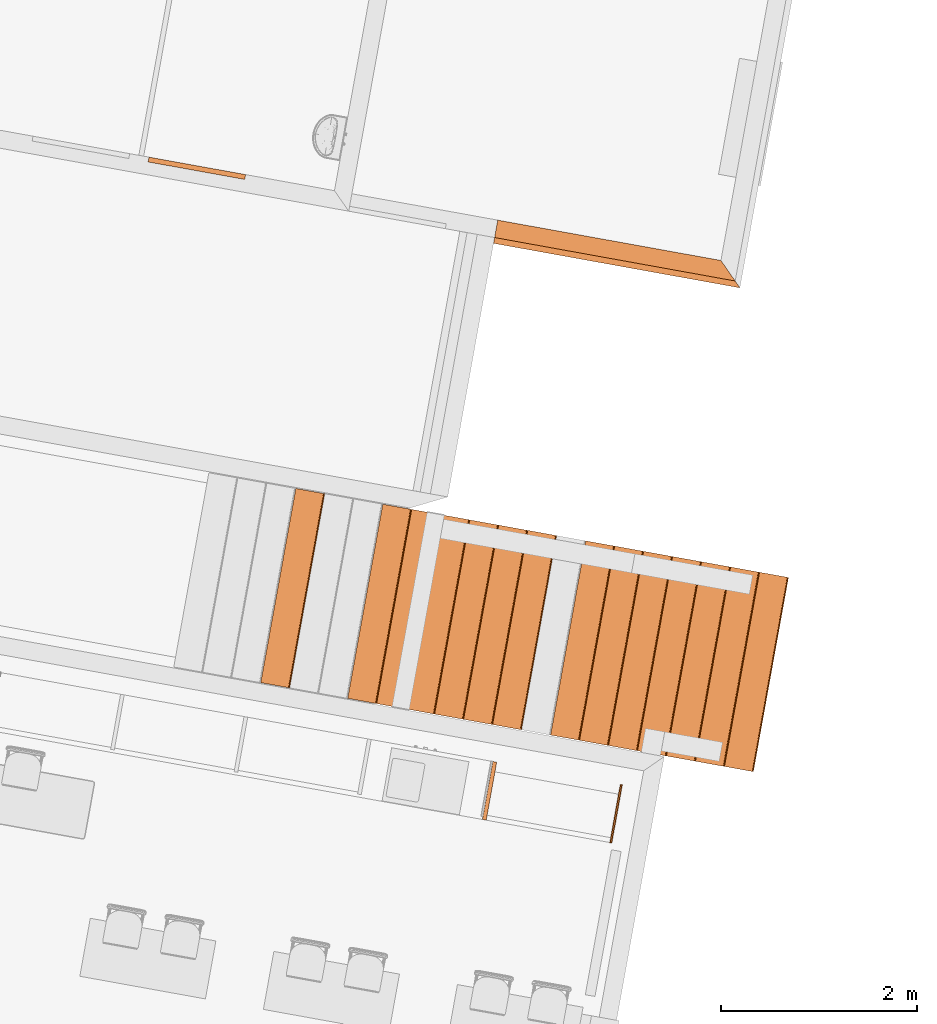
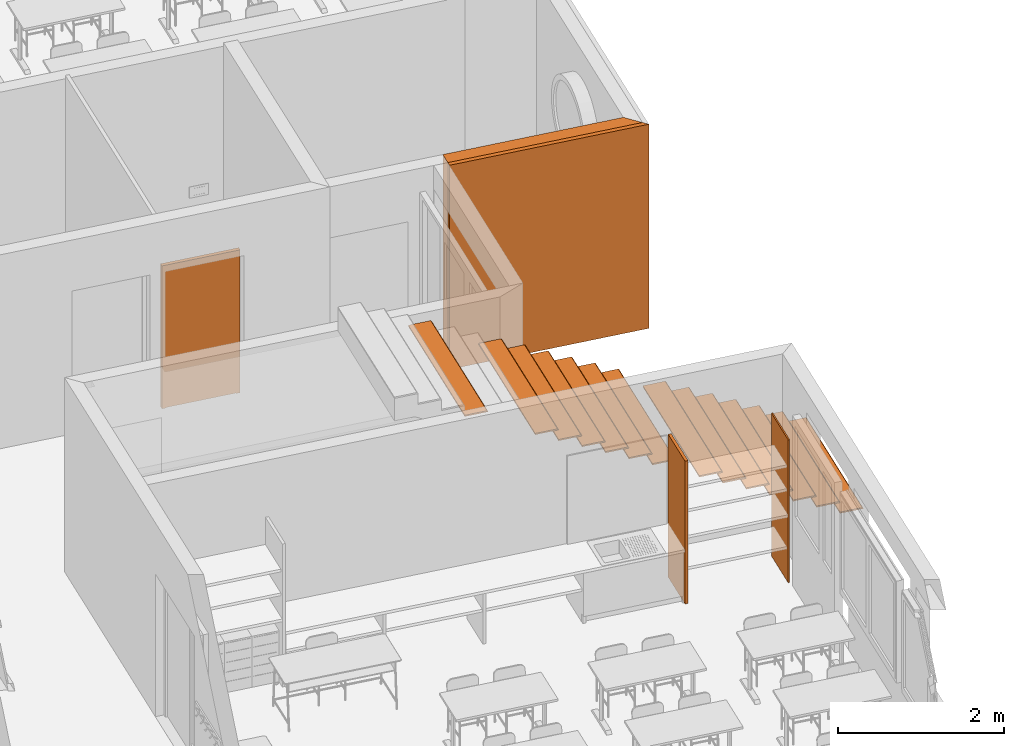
# One storey, part 30 of 79: 19 proxies, 2 elements without a shape of their own.
"""IFC2X3 building model written with IfcOpenShell, lengths in metres."""

import ifcopenshell
import ifcopenshell.guid

model = None  # the IFC model being written
_history = None  # IfcOwnerHistory: only IFC2X3 demands one
_inside = {}  # id of a spatial element -> (the spatial element, [elements in it])
_under = {}  # id of a project, library or spatial element -> (it, [spatial elements below it])
_declared = {}  # id of a project -> (the project, [libraries it declares])
_typed = {}  # id of a type object -> (the type object, [elements of that type])
_made_of = {}  # id of a material, layer set ... -> (it, [elements and type objects made of it])


def new_model(schema):
    """Start an empty IFC model of exactly this schema.

    Asked for "IFC4X3", IfcOpenShell would pick the latest addendum, in which some entities
    have other attributes; the version numbers below select the first issue.
    IFC2X3 requires an IfcOwnerHistory on every rooted entity: one is made here for all.
    """
    global model, _history
    if schema == "IFC4X3":
        model = ifcopenshell.file(schema_version=(4, 3, 0, 0))
    else:
        model = ifcopenshell.file(schema=schema)
    _inside.clear()
    _under.clear()
    _declared.clear()
    _typed.clear()
    _made_of.clear()
    _history = None
    if model.schema == "IFC2X3":
        org = make("IfcOrganization", Name="unknown")
        user = make(
            "IfcPersonAndOrganization",
            ThePerson=make("IfcPerson", FamilyName="unknown"),
            TheOrganization=org,
        )
        app = make(
            "IfcApplication",
            ApplicationDeveloper=org,
            Version="unknown",
            ApplicationFullName="unknown",
            ApplicationIdentifier="unknown",
        )
        _history = make(
            "IfcOwnerHistory",
            OwningUser=user,
            OwningApplication=app,
            ChangeAction="ADDED",
            CreationDate=0,
        )
    return model


def make(cls, **values):
    """One entity of the class cls with the attributes given. An attribute that is None is left unset."""
    return model.create_entity(
        cls, **{name: value for name, value in values.items() if value is not None}
    )


def entity(cls, *values):
    """Any entity or typed value of the class cls, its attributes in the order of the schema. None: left unset."""
    e = model.create_entity(cls)
    for i, value in enumerate(values):
        if value is not None:
            e[i] = value
    return e


def rooted(cls, **values):
    """An entity with a GlobalId (a new one), such as an element, a storey or a relation."""
    return make(cls, GlobalId=ifcopenshell.guid.new(), OwnerHistory=_history, **values)


def si_unit(unit_type, name, prefix=None):
    """IfcSIUnit, for example si_unit("LENGTHUNIT", "METRE", prefix="MILLI")."""
    return make("IfcSIUnit", UnitType=unit_type, Prefix=prefix, Name=name)


def converted_unit(unit_type, name, factor, base, dimensions=None, offset=None):
    """IfcConversionBasedUnit, such as the inch: factor (a typed value) times the base unit."""
    return make(
        "IfcConversionBasedUnit"
        if offset is None
        else "IfcConversionBasedUnitWithOffset",
        ConversionOffset=offset,
        Dimensions=None
        if dimensions is None
        else entity("IfcDimensionalExponents", *dimensions),
        UnitType=unit_type,
        Name=name,
        ConversionFactor=make(
            "IfcMeasureWithUnit", ValueComponent=factor, UnitComponent=base
        ),
    )


def derived_unit(unit_type, elements):
    """IfcDerivedUnit: a product of units, each with its exponent."""
    return make(
        "IfcDerivedUnit",
        Elements=[
            make("IfcDerivedUnitElement", Unit=unit, Exponent=power)
            for unit, power in elements
        ],
        UnitType=unit_type,
    )


def money_unit(currency):
    """IfcMonetaryUnit."""
    return make("IfcMonetaryUnit", Currency=currency)


def assignment(units):
    """IfcUnitAssignment: the units of a project."""
    return None if units is None else make("IfcUnitAssignment", Units=units)


def point(xyz):
    """IfcCartesianPoint."""
    return None if xyz is None else make("IfcCartesianPoint", Coordinates=xyz)


def direction(xyz):
    """IfcDirection."""
    return None if xyz is None else make("IfcDirection", DirectionRatios=xyz)


def frame(location, z_axis=None, x_axis=None):
    """IfcAxis2Placement3D, a coordinate frame: its origin and axes. An axis left out is left unset."""
    return make(
        "IfcAxis2Placement3D",
        Location=point(location),
        Axis=direction(z_axis),
        RefDirection=direction(x_axis),
    )


def origin_with_axes():
    """The frame at (0, 0, 0) with the z axis (0, 0, 1) and the x axis (1, 0, 0) written out."""
    return frame((0.0, 0.0, 0.0), z_axis=(0.0, 0.0, 1.0), x_axis=(1.0, 0.0, 0.0))


def place(relative_to, where):
    """IfcLocalPlacement: puts the frame where relative to a parent placement (None: the world)."""
    return make(
        "IfcLocalPlacement", PlacementRelTo=relative_to, RelativePlacement=where
    )


def context(
    kind, dimensions, precision=None, world=None, true_north=None, identifier=None
):
    """IfcGeometricRepresentationContext, for example the 3D "Model" context."""
    return make(
        "IfcGeometricRepresentationContext",
        ContextIdentifier=identifier,
        ContextType=kind,
        CoordinateSpaceDimension=dimensions,
        Precision=precision,
        WorldCoordinateSystem=world,
        TrueNorth=true_north,
    )


def subcontext(parent, identifier, kind, view, scale=None):
    """IfcGeometricRepresentationSubContext, for example "Body" below "Model"."""
    return make(
        "IfcGeometricRepresentationSubContext",
        ContextIdentifier=identifier,
        ContextType=kind,
        ParentContext=parent,
        TargetScale=scale,
        TargetView=view,
    )


def project(units=None, contexts=None):
    """IfcProject with its units and contexts."""
    return rooted(
        "IfcProject",
        Name="project",
        RepresentationContexts=contexts,
        UnitsInContext=assignment(units),
    )


def spatial(cls, under=None, at=None, **own):
    """A site, building, storey or space (cls), placed at a placement, below another one or the project."""
    s = rooted(cls, ObjectPlacement=at, **own)
    if under is not None:
        _under.setdefault(under.id(), (under, []))[1].append(s)
    return s


def polyline(points):
    """IfcPolyline through the points."""
    return make("IfcPolyline", Points=[point(p) for p in points])


def outline(outer, holes=None, kind="AREA"):
    """IfcArbitraryClosedProfileDef: a profile drawn as a closed curve; with holes, ...WithVoids."""
    if holes is None:
        return make("IfcArbitraryClosedProfileDef", ProfileType=kind, OuterCurve=outer)
    return make(
        "IfcArbitraryProfileDefWithVoids",
        ProfileType=kind,
        OuterCurve=outer,
        InnerCurves=holes,
    )


def extrude(swept, where, along, depth):
    """IfcExtrudedAreaSolid: the profile swept, set in the frame where, extruded along a direction by depth."""
    return make(
        "IfcExtrudedAreaSolid",
        SweptArea=swept,
        Position=where,
        ExtrudedDirection=direction(along),
        Depth=depth,
    )


def faces_of(points, faces, orient=None, outer=None):
    """IfcFace entities. A face is a list of loops; a loop is a list of indices into points, from 0.

    orient and outer hold one flag for each loop. By default every Orientation is true, the
    first loop of a face is its IfcFaceOuterBound and the others are IfcFaceBound.
    """
    made = []
    for i, loops in enumerate(faces):
        bounds = []
        for j, loop in enumerate(loops):
            is_outer = j == 0 if outer is None else outer[i][j]
            bounds.append(
                make(
                    "IfcFaceOuterBound" if is_outer else "IfcFaceBound",
                    Bound=make("IfcPolyLoop", Polygon=[points[k] for k in loop]),
                    Orientation=True if orient is None else orient[i][j],
                )
            )
        made.append(make("IfcFace", Bounds=bounds))
    return made


def faceted_brep(points, faces, orient=None, outer=None, voids=None):
    """IfcFacetedBrep: a solid bounded by flat faces; with voids (closed shells), ...WithVoids."""
    shared = [point(p) for p in points]
    hull = make("IfcClosedShell", CfsFaces=faces_of(shared, faces, orient, outer))
    if voids is None:
        return make("IfcFacetedBrep", Outer=hull)
    return make(
        "IfcFacetedBrepWithVoids",
        Outer=hull,
        Voids=[
            make(cls, CfsFaces=faces_of(shared, fs, o, b)) for cls, fs, o, b in voids
        ],
    )


def shape(context_of_items, identifier, shape_type, items):
    """IfcShapeRepresentation: the items that make up one representation, for example the "Body"."""
    return make(
        "IfcShapeRepresentation",
        ContextOfItems=context_of_items,
        RepresentationIdentifier=identifier,
        RepresentationType=shape_type,
        Items=items,
    )


def source(mapping_origin, context_of_items, identifier, shape_type, items):
    """IfcRepresentationMap: a shape defined once, which mapped items show again and again."""
    return make(
        "IfcRepresentationMap",
        MappingOrigin=mapping_origin,
        MappedRepresentation=shape(context_of_items, identifier, shape_type, items),
    )


def transform(
    local_origin,
    x_axis=None,
    y_axis=None,
    z_axis=None,
    scale=None,
    scale2=None,
    scale3=None,
    uniform=True,
):
    """IfcCartesianTransformationOperator3D, or its non-uniform kind. x_axis, y_axis, z_axis: its Axis1, 2, 3."""
    if uniform:
        return make(
            "IfcCartesianTransformationOperator3D",
            Axis1=direction(x_axis),
            Axis2=direction(y_axis),
            LocalOrigin=point(local_origin),
            Scale=scale,
            Axis3=direction(z_axis),
        )
    return make(
        "IfcCartesianTransformationOperator3DnonUniform",
        Axis1=direction(x_axis),
        Axis2=direction(y_axis),
        LocalOrigin=point(local_origin),
        Scale=scale,
        Axis3=direction(z_axis),
        Scale2=scale2,
        Scale3=scale3,
    )


def mapped(mapping_source, mapping_target):
    """IfcMappedItem: shows the shape of a source again, moved by a transform."""
    return make(
        "IfcMappedItem", MappingSource=mapping_source, MappingTarget=mapping_target
    )


def material(Name=None, Category=None):
    """IfcMaterial."""
    return make("IfcMaterial", Name=Name, Category=Category)


def made_of(thing, what):
    """Note that an element or type object is made of a material, layer set ...; save() writes the relation."""
    if what is not None:
        _made_of.setdefault(what.id(), (what, []))[1].append(thing)
    return thing


def type_object(cls, material=None, **own):
    """A type object (cls), such as IfcWallType, which elements share."""
    return made_of(rooted(cls, **own), material)


def element(
    cls,
    number,
    at=None,
    inside=None,
    cuts=None,
    type_object=None,
    material=None,
    context=None,
    identifier="Body",
    shape_type=None,
    held_by="IfcProductDefinitionShape",
    body=None,
    shapes=None,
    **own,
):
    """One element of the class cls, such as IfcWall. Its Tag is "e" and its number.

    at: its placement. inside: the storey or other place that contains it. cuts: it is an
    opening in that element (IfcRelVoidsElement). A single representation is given by context,
    identifier, shape_type and body (its items); several are given by shapes. held_by: the class
    of the entity that holds the representations. save() writes the other relations.
    """
    e = rooted(cls, Tag="e%d" % number, ObjectPlacement=at, **own)
    if body is not None:
        shapes = [shape(context, identifier, shape_type, body)]
    if shapes is not None:
        e.Representation = make(held_by, Representations=shapes)
    if inside is not None:
        _inside.setdefault(inside.id(), (inside, []))[1].append(e)
    if cuts is not None:
        rooted(
            "IfcRelVoidsElement", RelatingBuildingElement=cuts, RelatedOpeningElement=e
        )
    if type_object is not None:
        _typed.setdefault(type_object.id(), (type_object, []))[1].append(e)
    return made_of(e, material)


def aggregate(whole, parts):
    """IfcRelAggregates: a whole, such as a stair, and the parts it consists of."""
    return rooted("IfcRelAggregates", RelatingObject=whole, RelatedObjects=parts)


def save(model, path):
    """Write the relations noted so far, then the file.

    IfcRelAggregates (storeys below a building ...), IfcRelContainedInSpatialStructure (elements
    in a storey), IfcRelDefinesByType, IfcRelAssociatesMaterial and IfcRelDeclares: one each for
    every whole, place, type object, material and project.
    """
    for whole, parts in _under.values():
        aggregate(whole, parts)
    for where, things in _inside.values():
        rooted(
            "IfcRelContainedInSpatialStructure",
            RelatedElements=things,
            RelatingStructure=where,
        )
    for kind, things in _typed.values():
        rooted("IfcRelDefinesByType", RelatedObjects=things, RelatingType=kind)
    for what, things in _made_of.values():
        rooted("IfcRelAssociatesMaterial", RelatedObjects=things, RelatingMaterial=what)
    for by, libraries in _declared.values():
        rooted("IfcRelDeclares", RelatingContext=by, RelatedDefinitions=libraries)
    model.write(path)


model = new_model("IFC2X3")

# Units and contexts
model_context = context("Model", 3, precision=1e-05, world=origin_with_axes(), true_north=direction((0.0, 1.0)))
body_context = subcontext(model_context, "Body", "Model", "MODEL_VIEW")
ifc_project = project(units=[si_unit("LENGTHUNIT", "METRE"), si_unit("AREAUNIT", "SQUARE_METRE"), si_unit("VOLUMEUNIT", "CUBIC_METRE"), converted_unit("PLANEANGLEUNIT", "DEGREE", entity("IfcPlaneAngleMeasure", 0.0174532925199), si_unit("PLANEANGLEUNIT", "RADIAN"), dimensions=[0, 0, 0, 0, 0, 0, 0]), money_unit("CHF"), converted_unit("TIMEUNIT", "Year", entity("IfcTimeMeasure", 31556926.0), si_unit("TIMEUNIT", "SECOND"), dimensions=[0, 0, 1, 0, 0, 0, 0]), si_unit("MASSUNIT", "GRAM", prefix="KILO"), si_unit("THERMODYNAMICTEMPERATUREUNIT", "DEGREE_CELSIUS"), si_unit("LUMINOUSINTENSITYUNIT", "LUMEN"), si_unit("ENERGYUNIT", "JOULE", prefix="MEGA"), derived_unit("THERMALCONDUCTANCEUNIT", [(si_unit("POWERUNIT", "WATT"), 1), (si_unit("LENGTHUNIT", "METRE"), -1), (si_unit("THERMODYNAMICTEMPERATUREUNIT", "KELVIN"), -1)]), derived_unit("SPECIFICHEATCAPACITYUNIT", [(si_unit("ENERGYUNIT", "JOULE"), 1), (si_unit("MASSUNIT", "GRAM", prefix="KILO"), -1), (si_unit("THERMODYNAMICTEMPERATUREUNIT", "KELVIN"), -1)]), derived_unit("MASSDENSITYUNIT", [(si_unit("MASSUNIT", "GRAM", prefix="KILO"), 1), (si_unit("VOLUMEUNIT", "CUBIC_METRE"), -1)])], contexts=[model_context])

# Site, building, storey
site_placement = place(None, frame((0.0, 0.0, 0.0), z_axis=(0.0, 0.0, 1.0), x_axis=(-0.177771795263, -0.984071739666, 0.0)))
site = spatial("IfcSite", under=ifc_project, at=site_placement, Name="Site", CompositionType="ELEMENT")
building_placement = place(site_placement, origin_with_axes())
building = spatial("IfcBuilding", under=site, at=building_placement, Name="Bâtiment", CompositionType="ELEMENT")
storey_placement = place(building_placement, origin_with_axes())
storey = spatial("IfcBuildingStorey", under=building, at=storey_placement, Name="RDC", CompositionType="ELEMENT", Elevation=0.0)

# Proxies
ifc_material_1 = material(Name="_panneau mélaminé")
building_element_proxy_type_1 = type_object("IfcBuildingElementProxyType", Name="_panneau mélaminé 40", PredefinedType="NOTDEFINED")
proxy_1_placement = place(storey_placement, frame((147.149841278, -149.826151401, 0.0), z_axis=(0.0, 0.0, 1.0), x_axis=(-1.0, 0.0, 0.0)))
element("IfcBuildingElementProxy", 1, at=proxy_1_placement, inside=storey, type_object=building_element_proxy_type_1, material=ifc_material_1, Name="cloison-fd-classe D", context=body_context, shape_type="SweptSolid", body=[
    extrude(outline(polyline([(0.0, -0.04), (0.600000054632, -0.04), (0.600000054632, 0.0), (0.0, 0.0), (0.0, -0.04)])), origin_with_axes(), (0.0, 0.0, 1.0), 2.1),
])
ifc_material_2 = material(Name="Matériau de construction IFC")
building_element_proxy_type_2 = type_object("IfcBuildingElementProxyType", Name="Porte 21", PredefinedType="NOTDEFINED")
shared_shape_1 = source(origin_with_axes(), body_context, "Body", "Brep", [
    faceted_brep([(0.95, 0.14, 0.0), (0.95, 0.13, 0.0), (0.95, 0.13, 2.05), (0.95, 0.14, 2.05), (0.962, 0.14, 0.0), (0.962, 0.18, 0.0), (1.0, 0.18, 0.0), (1.0, 0.13, 0.0), (1.0, 0.13, 2.05), (0.962, 0.14, 2.05), (1.0, 0.18, 2.05), (0.962, 0.18, 2.05)], [[[0, 1, 2, 3]], [[4, 5, 6, 7, 1, 0]], [[1, 7, 8, 2]], [[9, 3, 2, 8, 10, 11]], [[9, 4, 0, 3]], [[11, 5, 4, 9]], [[11, 10, 6, 5]], [[6, 10, 8, 7]]]),
    faceted_brep([(0.038, 0.14, 2.05), (0.038, 0.18, 2.05), (0.0, 0.18, 2.05), (0.0, 0.13, 2.05), (0.05, 0.13, 2.05), (0.05, 0.14, 2.05), (0.038, 0.14, 0.0), (0.038, 0.18, 0.0), (0.0, 0.18, 0.0), (0.0, 0.13, 0.0), (0.05, 0.13, 0.0), (0.05, 0.14, 0.0)], [[[0, 1, 2, 3, 4, 5]], [[0, 6, 7, 1]], [[7, 8, 2, 1]], [[2, 8, 9, 3]], [[3, 9, 10, 4]], [[5, 4, 10, 11]], [[5, 11, 6, 0]], [[6, 11, 10, 9, 8, 7]]]),
    faceted_brep([(0.962, 0.18, 2.062), (0.038, 0.18, 2.062), (0.038, 0.18, 2.05), (0.0, 0.18, 2.05), (0.0, 0.18, 2.1), (1.0, 0.18, 2.1), (1.0, 0.18, 2.05), (0.962, 0.18, 2.05), (0.962, 0.14, 2.062), (0.038, 0.14, 2.062), (0.038, 0.14, 2.05), (0.05, 0.14, 2.05), (0.05, 0.13, 2.05), (0.0, 0.13, 2.05), (0.0, 0.13, 2.1), (1.0, 0.13, 2.1), (1.0, 0.13, 2.05), (0.962, 0.14, 2.05), (0.95, 0.13, 2.05), (0.95, 0.14, 2.05)], [[[0, 1, 2, 3, 4, 5, 6, 7]], [[0, 8, 9, 1]], [[1, 9, 10, 2]], [[10, 11, 12, 13, 3, 2]], [[4, 3, 13, 14]], [[5, 4, 14, 15]], [[6, 5, 15, 16]], [[17, 7, 6, 16, 18, 19]], [[7, 17, 8, 0]], [[10, 9, 8, 17, 19, 11]], [[19, 18, 12, 11]], [[12, 18, 16, 15, 14, 13]]]),
    faceted_brep([(0.038, 0.17, 0.0), (0.962, 0.17, 0.0), (0.962, 0.14, 0.0), (0.038, 0.14, 0.0), (0.038, 0.17, 2.062), (0.962, 0.17, 2.062), (0.962, 0.14, 2.062), (0.038, 0.14, 2.062)], [[[0, 1, 2, 3]], [[0, 4, 5, 1]], [[1, 5, 6, 2]], [[3, 2, 6, 7]], [[4, 0, 3, 7]], [[5, 4, 7, 6]]]),
])
proxy_2_placement = place(storey_placement, frame((141.294841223, -154.367150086, 0.0), z_axis=(0.0, 0.0, 1.0), x_axis=(0.0, 1.0, 0.0)))
element("IfcBuildingElementProxy", 2, at=proxy_2_placement, inside=storey, type_object=building_element_proxy_type_2, material=ifc_material_2, Name="23", context=body_context, shape_type="MappedRepresentation", body=[
    mapped(shared_shape_1, transform((0.0, 0.0, 0.0))),
])
building_element_proxy_type_3 = type_object("IfcBuildingElementProxyType", Name="_panneau mélaminé 19", PredefinedType="NOTDEFINED")
proxy_3_placement = place(storey_placement, frame((147.149841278, -148.506151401, 0.0), z_axis=(0.0, 0.0, 1.0), x_axis=(-1.0, 0.0, 0.0)))
element("IfcBuildingElementProxy", 3, at=proxy_3_placement, inside=storey, type_object=building_element_proxy_type_3, material=ifc_material_1, Name="cloison-fd-classe D", context=body_context, shape_type="SweptSolid", body=[
    extrude(outline(polyline([(0.0, -0.019), (0.600000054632, -0.019), (0.600000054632, 0.0), (0.0, 0.0), (0.0, -0.019)])), origin_with_axes(), (0.0, 0.0, 1.0), 2.1),
])

building_element_proxy_type_4 = type_object("IfcBuildingElementProxyType", Name="_M ext bard. 6+18+18 gris 420", PredefinedType="NOTDEFINED")
proxy_4_placement = place(storey_placement, origin_with_axes())
proxy_4 = element("IfcBuildingElementProxy", 4, at=proxy_4_placement, inside=storey, type_object=building_element_proxy_type_4, Name="M ext-milieu")
ifc_material_3 = material(Name="_BA banché RAL9007")
building_element_proxy_type_5 = type_object("IfcBuildingElementProxyType", Name="IFC Extruded", PredefinedType="NOTDEFINED")
proxy_5_placement = place(proxy_4_placement, frame((141.294841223, -150.757148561, -0.15), z_axis=(0.0, 0.0, 1.0), x_axis=(0.0, 1.0, 0.0)))
proxy_5 = element("IfcBuildingElementProxy", 5, at=proxy_5_placement, type_object=building_element_proxy_type_5, material=ifc_material_3, Name="_BA banché RAL9007", context=body_context, shape_type="SweptSolid", body=[
    extrude(outline(polyline([(0.0, 0.0), (2.48999814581, 0.0), (2.30999813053, 0.18), (0.0, 0.18), (0.0, 0.0)])), origin_with_axes(), (0.0, 0.0, 1.0), 3.0),
])
ifc_material_4 = material(Name="Bois - Bardage")
proxy_6_placement = place(proxy_4_placement, frame((141.294841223, -150.757148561, -0.15), z_axis=(0.0, 0.0, 1.0), x_axis=(0.0, 1.0, 0.0)))
proxy_6 = element("IfcBuildingElementProxy", 6, at=proxy_6_placement, type_object=building_element_proxy_type_5, material=ifc_material_4, Name="Bois - Bardage", context=body_context, shape_type="SweptSolid", body=[
    extrude(outline(polyline([(0.0, -0.06), (2.5499981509, -0.06), (2.48999814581, 0.0), (0.0, 0.0), (0.0, -0.06)])), origin_with_axes(), (0.0, 0.0, 1.0), 3.0),
])
aggregate(proxy_4, [proxy_5, proxy_6])

building_element_proxy_type_6 = type_object("IfcBuildingElementProxyType", Name="Type d'escalier", PredefinedType="NOTDEFINED")
proxy_7_placement = place(storey_placement, origin_with_axes())
proxy_7 = element("IfcBuildingElementProxy", 7, at=proxy_7_placement, inside=storey, type_object=building_element_proxy_type_6, Name="ESC-2")
ifc_material_5 = material(Name="_BA banché")
building_element_proxy_type_7 = type_object("IfcBuildingElementProxyType", Name="IfcBuildingElementProxy", PredefinedType="NOTDEFINED")
shared_shape_2 = source(origin_with_axes(), body_context, "Body", "Brep", [
    faceted_brep([(-1.005, -0.3, 0.0), (-1.005, -0.3, -0.02), (1.00505429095, -0.3, -0.02), (1.00505429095, -0.3, 0.0), (-1.005, -0.02, 0.0), (-1.005, -0.0165270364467, -0.00030384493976), (-1.005, -0.0131595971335, -0.00120614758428), (-1.005, -0.00999999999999, -0.00267949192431), (-1.005, -0.00714424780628, -0.00467911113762), (-1.005, -0.00467911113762, -0.00714424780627), (-1.005, -0.00267949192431, -0.01), (-1.005, -0.00120614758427, -0.0131595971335), (-1.005, -0.00030384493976, -0.0165270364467), (-1.005, 0.0, -0.02), (1.00505429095, 0.0, -0.02), (1.00505429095, -0.00030384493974, -0.0165270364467), (1.00505429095, -0.00120614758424, -0.0131595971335), (1.00505429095, -0.00267949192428, -0.01), (1.00505429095, -0.00467911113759, -0.00714424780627), (1.00505429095, -0.00714424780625, -0.00467911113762), (1.00505429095, -0.00999999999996, -0.00267949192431), (1.00505429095, -0.0131595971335, -0.00120614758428), (1.00505429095, -0.0165270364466, -0.00030384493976), (1.00505429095, -0.02, 0.0)], [[[0, 1, 2, 3]], [[4, 5, 6, 7, 8, 9, 10, 11, 12, 13, 1, 0]], [[14, 2, 1, 13]], [[15, 16, 17, 18, 19, 20, 21, 22, 23, 3, 2, 14]], [[3, 23, 4, 0]], [[22, 5, 4, 23]], [[21, 6, 5, 22]], [[20, 7, 6, 21]], [[19, 8, 7, 20]], [[18, 9, 8, 19]], [[17, 10, 9, 18]], [[16, 11, 10, 17]], [[15, 12, 11, 16]], [[14, 13, 12, 15]]]),
])
proxy_8_placement = place(proxy_7_placement, frame((145.175042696, -147.195380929, 0.16), z_axis=(0.0, 0.0, 1.0), x_axis=(1.0, 0.0, 0.0)))
proxy_8 = element("IfcBuildingElementProxy", 8, at=proxy_8_placement, type_object=building_element_proxy_type_7, material=ifc_material_5, Name="MARCHE-021", context=body_context, shape_type="MappedRepresentation", body=[
    mapped(shared_shape_2, transform((0.0, 0.0, 0.0))),
])
proxy_9_placement = place(proxy_7_placement, frame((145.175042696, -147.495380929, 0.32), z_axis=(0.0, 0.0, 1.0), x_axis=(1.0, 0.0, 0.0)))
proxy_9 = element("IfcBuildingElementProxy", 9, at=proxy_9_placement, type_object=building_element_proxy_type_7, material=ifc_material_5, Name="MARCHE-021", context=body_context, shape_type="MappedRepresentation", body=[
    mapped(shared_shape_2, transform((0.0, 0.0, 0.0))),
])
proxy_10_placement = place(proxy_7_placement, frame((145.175042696, -147.795380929, 0.48), z_axis=(0.0, 0.0, 1.0), x_axis=(1.0, 0.0, 0.0)))
proxy_10 = element("IfcBuildingElementProxy", 10, at=proxy_10_placement, type_object=building_element_proxy_type_7, material=ifc_material_5, Name="MARCHE-021", context=body_context, shape_type="MappedRepresentation", body=[
    mapped(shared_shape_2, transform((0.0, 0.0, 0.0))),
])
proxy_11_placement = place(proxy_7_placement, frame((145.175042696, -148.095380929, 0.64), z_axis=(0.0, 0.0, 1.0), x_axis=(1.0, 0.0, 0.0)))
proxy_11 = element("IfcBuildingElementProxy", 11, at=proxy_11_placement, type_object=building_element_proxy_type_7, material=ifc_material_5, Name="MARCHE-021", context=body_context, shape_type="MappedRepresentation", body=[
    mapped(shared_shape_2, transform((0.0, 0.0, 0.0))),
])
proxy_12_placement = place(proxy_7_placement, frame((145.175042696, -148.395380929, 0.8), z_axis=(0.0, 0.0, 1.0), x_axis=(1.0, 0.0, 0.0)))
proxy_12 = element("IfcBuildingElementProxy", 12, at=proxy_12_placement, type_object=building_element_proxy_type_7, material=ifc_material_5, Name="MARCHE-021", context=body_context, shape_type="MappedRepresentation", body=[
    mapped(shared_shape_2, transform((0.0, 0.0, 0.0))),
])
shared_shape_3 = source(origin_with_axes(), body_context, "Body", "Brep", [
    faceted_brep([(-1.005, -0.3, 0.0), (-1.005, -0.3, -0.02), (1.00505429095, -0.3, -0.02), (1.00505429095, -0.3, 0.0), (-1.005, -0.02, 0.0), (-1.005, -0.0165270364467, -0.00030384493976), (-1.005, -0.0131595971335, -0.00120614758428), (-1.005, -0.00999999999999, -0.00267949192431), (-1.005, -0.00714424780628, -0.00467911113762), (-1.005, -0.00467911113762, -0.00714424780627), (-1.005, -0.00267949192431, -0.01), (-1.005, -0.00120614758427, -0.0131595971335), (-1.005, -0.00030384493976, -0.0165270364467), (-1.005, 0.0, -0.02), (1.00505429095, 0.0, -0.02), (1.00505429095, -0.00030384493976, -0.0165270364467), (1.00505429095, -0.00120614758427, -0.0131595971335), (1.00505429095, -0.00267949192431, -0.01), (1.00505429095, -0.00467911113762, -0.00714424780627), (1.00505429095, -0.00714424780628, -0.00467911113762), (1.00505429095, -0.00999999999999, -0.00267949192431), (1.00505429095, -0.0131595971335, -0.00120614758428), (1.00505429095, -0.0165270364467, -0.00030384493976), (1.00505429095, -0.02, 0.0)], [[[0, 1, 2, 3]], [[4, 5, 6, 7, 8, 9, 10, 11, 12, 13, 1, 0]], [[14, 2, 1, 13]], [[15, 16, 17, 18, 19, 20, 21, 22, 23, 3, 2, 14]], [[3, 23, 4, 0]], [[22, 5, 4, 23]], [[21, 6, 5, 22]], [[20, 7, 6, 21]], [[19, 8, 7, 20]], [[18, 9, 8, 19]], [[17, 10, 9, 18]], [[16, 11, 10, 17]], [[15, 12, 11, 16]], [[14, 13, 12, 15]]]),
])
proxy_13_placement = place(proxy_7_placement, frame((145.175042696, -148.695380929, 0.96), z_axis=(0.0, 0.0, 1.0), x_axis=(1.0, 0.0, 0.0)))
proxy_13 = element("IfcBuildingElementProxy", 13, at=proxy_13_placement, type_object=building_element_proxy_type_7, material=ifc_material_5, Name="MARCHE-021", context=body_context, shape_type="MappedRepresentation", body=[
    mapped(shared_shape_3, transform((0.0, 0.0, 0.0))),
])
proxy_14_placement = place(proxy_7_placement, frame((145.175042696, -148.995380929, 1.12), z_axis=(0.0, 0.0, 1.0), x_axis=(1.0, 0.0, 0.0)))
proxy_14 = element("IfcBuildingElementProxy", 14, at=proxy_14_placement, type_object=building_element_proxy_type_7, material=ifc_material_5, Name="MARCHE-021", context=body_context, shape_type="MappedRepresentation", body=[
    mapped(shared_shape_3, transform((0.0, 0.0, 0.0))),
])
proxy_15_placement = place(proxy_7_placement, frame((145.175042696, -149.595380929, 1.44), z_axis=(0.0, 0.0, 1.0), x_axis=(1.0, 0.0, 0.0)))
proxy_15 = element("IfcBuildingElementProxy", 15, at=proxy_15_placement, type_object=building_element_proxy_type_7, material=ifc_material_5, Name="MARCHE-021", context=body_context, shape_type="MappedRepresentation", body=[
    mapped(shared_shape_3, transform((0.0, 0.0, 0.0))),
])
proxy_16_placement = place(proxy_7_placement, frame((145.175042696, -149.895380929, 1.6), z_axis=(0.0, 0.0, 1.0), x_axis=(1.0, 0.0, 0.0)))
proxy_16 = element("IfcBuildingElementProxy", 16, at=proxy_16_placement, type_object=building_element_proxy_type_7, material=ifc_material_5, Name="MARCHE-021", context=body_context, shape_type="MappedRepresentation", body=[
    mapped(shared_shape_3, transform((0.0, 0.0, 0.0))),
])
proxy_17_placement = place(proxy_7_placement, frame((145.175042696, -150.195380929, 1.76), z_axis=(0.0, 0.0, 1.0), x_axis=(1.0, 0.0, 0.0)))
proxy_17 = element("IfcBuildingElementProxy", 17, at=proxy_17_placement, type_object=building_element_proxy_type_7, material=ifc_material_5, Name="MARCHE-021", context=body_context, shape_type="MappedRepresentation", body=[
    mapped(shared_shape_3, transform((0.0, 0.0, 0.0))),
])
proxy_18_placement = place(proxy_7_placement, frame((145.175042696, -150.495380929, 1.92), z_axis=(0.0, 0.0, 1.0), x_axis=(1.0, 0.0, 0.0)))
proxy_18 = element("IfcBuildingElementProxy", 18, at=proxy_18_placement, type_object=building_element_proxy_type_7, material=ifc_material_5, Name="MARCHE-021", context=body_context, shape_type="MappedRepresentation", body=[
    mapped(shared_shape_3, transform((0.0, 0.0, 0.0))),
])
proxy_19_placement = place(proxy_7_placement, frame((145.175042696, -150.795380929, 2.08), z_axis=(0.0, 0.0, 1.0), x_axis=(1.0, 0.0, 0.0)))
proxy_19 = element("IfcBuildingElementProxy", 19, at=proxy_19_placement, type_object=building_element_proxy_type_7, material=ifc_material_5, Name="MARCHE-021", context=body_context, shape_type="MappedRepresentation", body=[
    mapped(shared_shape_3, transform((0.0, 0.0, 0.0))),
])
proxy_20_placement = place(proxy_7_placement, frame((145.175042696, -151.095380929, 2.24), z_axis=(0.0, 0.0, 1.0), x_axis=(1.0, 0.0, 0.0)))
proxy_20 = element("IfcBuildingElementProxy", 20, at=proxy_20_placement, type_object=building_element_proxy_type_7, material=ifc_material_5, Name="MARCHE-021", context=body_context, shape_type="MappedRepresentation", body=[
    mapped(shared_shape_3, transform((0.0, 0.0, 0.0))),
])
proxy_21_placement = place(proxy_7_placement, frame((145.175042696, -151.995380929, 2.72), z_axis=(0.0, 0.0, 1.0), x_axis=(1.0, 0.0, 0.0)))
proxy_21 = element("IfcBuildingElementProxy", 21, at=proxy_21_placement, type_object=building_element_proxy_type_7, material=ifc_material_5, Name="MARCHE-021", context=body_context, shape_type="MappedRepresentation", body=[
    mapped(shared_shape_3, transform((0.0, 0.0, 0.0))),
])
aggregate(proxy_7, [proxy_8, proxy_9, proxy_10, proxy_11, proxy_12, proxy_13, proxy_14, proxy_15, proxy_16, proxy_17, proxy_18, proxy_19, proxy_20, proxy_21])

save(model, "model.ifc")
